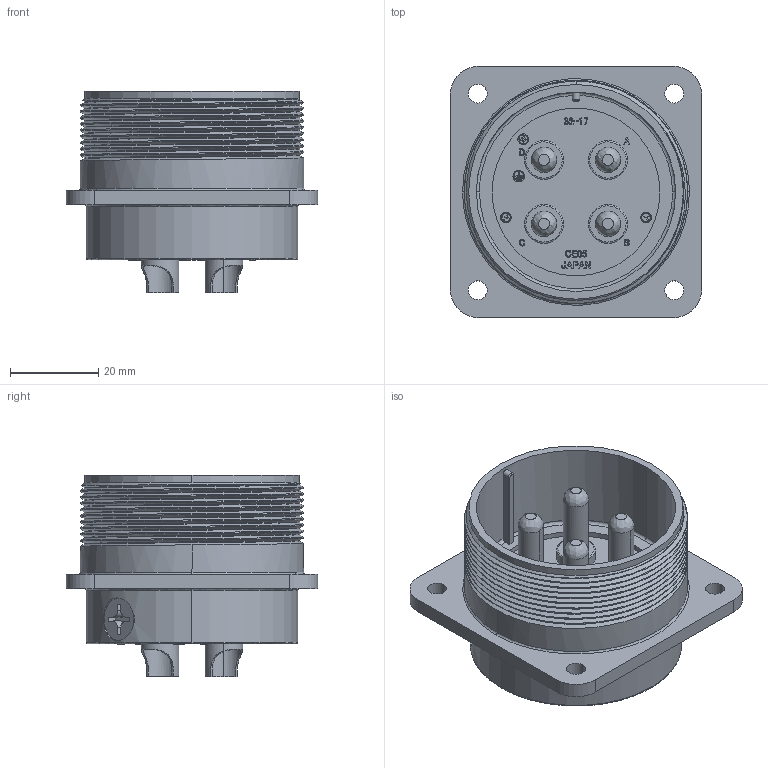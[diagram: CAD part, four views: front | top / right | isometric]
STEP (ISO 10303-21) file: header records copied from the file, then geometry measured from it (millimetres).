
FILE_DESCRIPTION (( 'STEP AP203' ), '1' );
FILE_NAME ('CE05-2A32-17PD-D.STEP', '2018-01-12T12:24:13', ( '' ), ( '' ), 'SwSTEP 2.0', 'SolidWorks 2015', '' );
FILE_SCHEMA (( 'CONFIG_CONTROL_DESIGN' ));
Length unit declared in the file: millimetre
Products named in the file (1): CE05-2A32-17PD-D
Bounding box: 56.9 x 56.9 x 45.61 mm (x, y, z)
Volume: 43746.3 mm3; surface area: 21670.7 mm2
Topology: 1 solids, 1 shells, 854 faces, 2272 edges, 1504 vertices
Faces by surface type: plane 417, bspline 274, cylinder 159, cone 4
Entity records: 37232 total; most frequent: CARTESIAN_POINT 17717, ORIENTED_EDGE 4524, DIRECTION 3121, EDGE_CURVE 2262, VERTEX_POINT 1504, LINE 1353, VECTOR 1353, EDGE_LOOP 956
